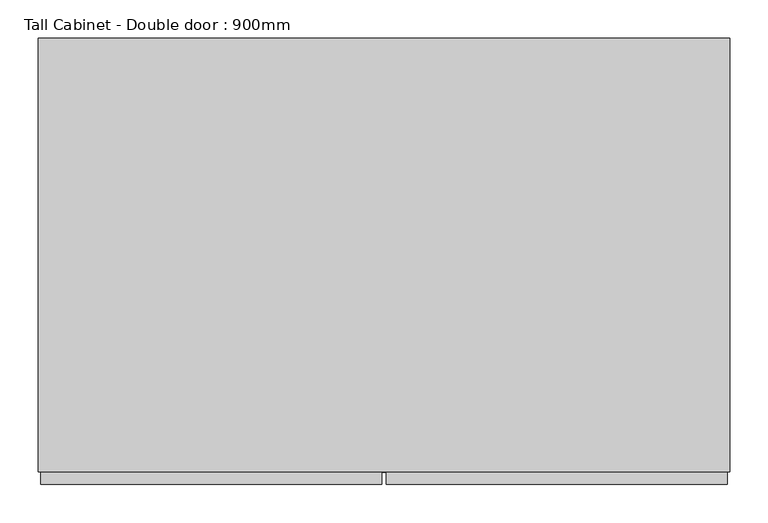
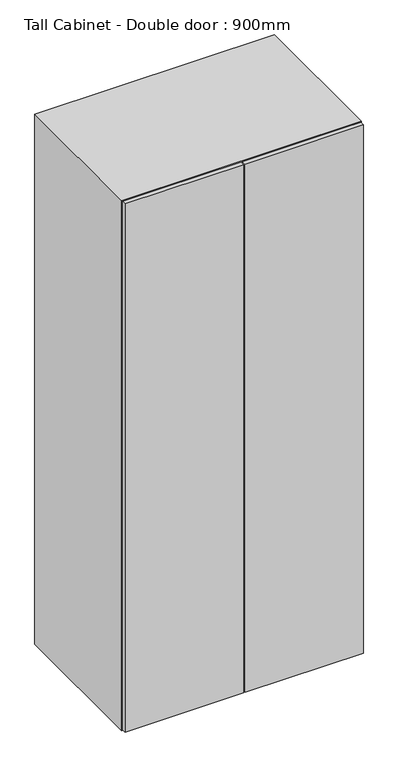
"""IFC4 building model written with IfcOpenShell, lengths in millimetres: furniture geometry, Tall Cabinet - Double door : 900mm."""

from ifc_helpers import new_model, si_unit, frame, origin, place, context, project, spatial, polyline, outline, extrude, source, transform, mapped, element, save


def tall_cabinet_double_door_900mm_d8c8d432(model_context):
    return source(origin(), model_context, "Body", "SweptSolid", [
        extrude(outline(polyline([(47.7003264, -581.0), (47.7003264, -565.0), (491.7003264, -565.0), (491.7003264, -581.0), (47.7003264, -581.0)])), frame((0.0, 0.0, 103.0), z_axis=(0.0, 0.0, 1.0), x_axis=(1.0, 0.0, 0.0)), (0.0, 0.0, 1.0), 2094.0),
        extrude(outline(polyline([(41.7003264, -581.0), (-402.2996736, -581.0), (-402.2996736, -565.0), (41.7003264, -565.0), (41.7003264, -581.0)])), frame((0.0, 0.0, 103.0), z_axis=(0.0, 0.0, 1.0), x_axis=(1.0, 0.0, 0.0)), (0.0, 0.0, 1.0), 2094.0),
        extrude(outline(polyline([(478.7003264, -10.0), (478.7003264, -16.0), (-389.2996736, -16.0), (-389.2996736, -10.0), (478.7003264, -10.0)])), frame((0.0, 0.0, 116.0), z_axis=(0.0, 0.0, 1.0), x_axis=(1.0, 0.0, 0.0)), (0.0, 0.0, 1.0), 2068.0),
        extrude(outline(polyline([(2200.0, 494.7003264), (2200.0, -405.2996736), (100.0, -405.2996736), (100.0, 494.7003264), (2200.0, 494.7003264)]), holes=[polyline([(2184.0, 478.7003264), (116.0, 478.7003264), (116.0, -389.2996736), (2184.0, -389.2996736), (2184.0, 478.7003264)])]), frame((0.0, -565.0, 0.0), z_axis=(0.0, 1.0, 0.0), x_axis=(0.0, 0.0, 1.0)), (0.0, 0.0, 1.0), 565.0),
    ])


if __name__ == "__main__":
    model = new_model("IFC4")
    model_context = context("Model", 3, world=origin())
    ifc_project = project(units=[si_unit("LENGTHUNIT", "METRE", prefix="MILLI")], contexts=[model_context])
    site = spatial("IfcSite", under=ifc_project)
    building = spatial("IfcBuilding", under=site)
    placement = place(None, origin())
    tall_cabinet_double_door_900mm_shape = tall_cabinet_double_door_900mm_d8c8d432(model_context)
    element("IfcFurniture", 1, ObjectType="Tall Cabinet - Double door : 900mm", at=placement, inside=building, context=model_context, shape_type="MappedRepresentation", body=[
        mapped(tall_cabinet_double_door_900mm_shape, transform((0.0, 0.0, 0.0), x_axis=(1.0, 0.0, 0.0), y_axis=(0.0, 1.0, 0.0), z_axis=(0.0, 0.0, 1.0))),
    ])
    save(model, "model.ifc")
